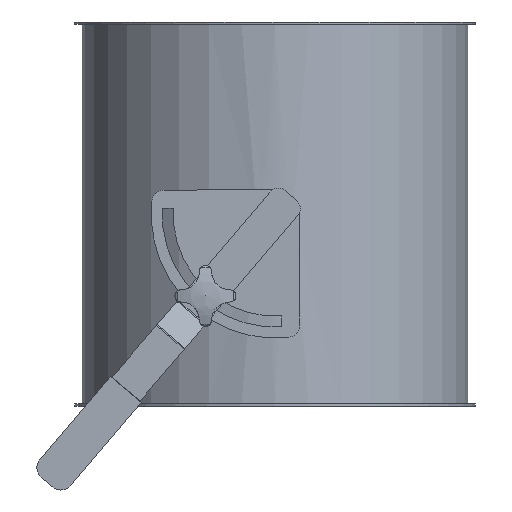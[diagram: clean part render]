
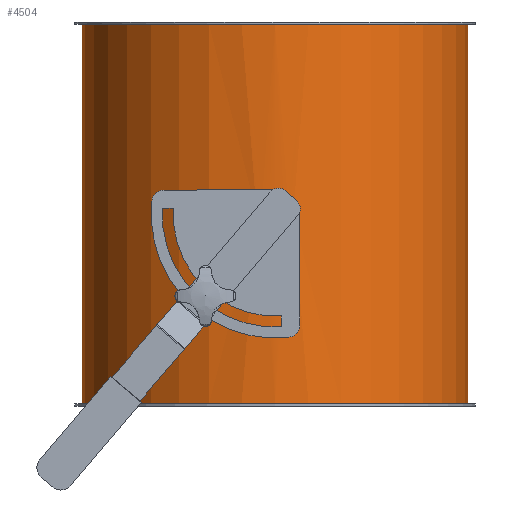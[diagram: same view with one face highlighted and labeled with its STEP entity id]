
A CAD part, left-side view. The second image highlights one B-rep face of the part: STEP entity #4504.
In plain terms, the highlighted cylindrical face has radius 158 mm (diameter 316 mm), a full revolution.
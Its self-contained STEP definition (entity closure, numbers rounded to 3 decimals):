
#4378=CARTESIAN_POINT('',(156.858,18.96,157.5));
#4379=VERTEX_POINT('',#4378);
#4389=CARTESIAN_POINT('',(156.858,18.961,157.5));
#4390=CARTESIAN_POINT('',(156.858,18.961,157.5));
#4391=CARTESIAN_POINT('',(156.858,18.961,157.501));
#4392=CARTESIAN_POINT('',(156.858,18.961,157.501));
#4393=CARTESIAN_POINT('',(156.858,18.96,159.678));
#4394=CARTESIAN_POINT('',(156.918,18.479,162.589));
#4395=CARTESIAN_POINT('',(157.16,16.324,167.97));
#4396=CARTESIAN_POINT('',(157.574,12.247,173.251));
#4397=CARTESIAN_POINT('',(158.016,4.404,177.149));
#4398=CARTESIAN_POINT('',(158.021,-5.323,177.178));
#4399=CARTESIAN_POINT('',(157.499,-13.023,172.613));
#4400=CARTESIAN_POINT('',(157.054,-17.322,166.109));
#4401=CARTESIAN_POINT('',(156.776,-19.61,158.594));
#4402=CARTESIAN_POINT('',(156.955,-18.282,149.531));
#4403=CARTESIAN_POINT('',(157.577,-12.233,141.747));
#4404=CARTESIAN_POINT('',(158.016,-4.383,137.841));
#4405=CARTESIAN_POINT('',(158.019,4.367,137.84));
#4406=CARTESIAN_POINT('',(157.576,12.223,141.729));
#4407=CARTESIAN_POINT('',(157.116,16.755,147.581));
#4408=CARTESIAN_POINT('',(156.898,18.637,153.109));
#4409=CARTESIAN_POINT('',(156.858,18.961,156.049));
#4410=CARTESIAN_POINT('',(156.858,18.961,157.5));
#4411=B_SPLINE_CURVE_WITH_KNOTS('',3,(#4389,#4390,#4391,#4392,#4393,#4394,#4395,#4396,#4397,#4398,#4399,#4400,#4401,#4402,#4403,#4404,#4405,#4406,#4407,#4408,#4409,#4410),.UNSPECIFIED.,.T.,.U.,(4,3,1,1,1,1,1,1,1,1,1,1,1,1,1,1,1,4),(-9.046,-9.046,-8.562,-8.4,-7.754,-7.108,-6.462,-5.6,-5.169,-4.739,-3.877,-3.231,-2.585,-1.938,-1.292,-0.646,-0.323,0.),.UNSPECIFIED.);
#4412=EDGE_CURVE('',#4379,#4379,#4411,.T.);
#4417=CARTESIAN_POINT('',(0.0,0.0,0.0));
#4418=DIRECTION('',(0.0,0.0,1.0));
#4419=DIRECTION('',(-1.0,0.0,0.0));
#4420=AXIS2_PLACEMENT_3D('',#4417,#4418,#4419);
#4421=CYLINDRICAL_SURFACE('',#4420,158.0);
#4422=CARTESIAN_POINT('',(158.0,0.,313.0));
#4423=VERTEX_POINT('',#4422);
#4424=CARTESIAN_POINT('',(0.0,0.0,313.0));
#4425=DIRECTION('',(0.0,0.0,-1.0));
#4426=DIRECTION('',(-1.0,0.0,0.0));
#4427=AXIS2_PLACEMENT_3D('',#4424,#4425,#4426);
#4428=CIRCLE('',#4427,158.0);
#4429=EDGE_CURVE('',#4423,#4423,#4428,.T.);
#4430=ORIENTED_EDGE('',*,*,#4429,.T.);
#4431=EDGE_LOOP('',(#4430));
#4432=FACE_OUTER_BOUND('',#4431,.T.);
#4433=CARTESIAN_POINT('',(-158.0,0.,2.0));
#4434=VERTEX_POINT('',#4433);
#4435=CARTESIAN_POINT('',(0.0,0.0,2.0));
#4436=DIRECTION('',(0.0,0.0,1.0));
#4437=DIRECTION('',(-1.0,0.0,0.0));
#4438=AXIS2_PLACEMENT_3D('',#4435,#4436,#4437);
#4439=CIRCLE('',#4438,158.0);
#4440=EDGE_CURVE('',#4434,#4434,#4439,.T.);
#4441=ORIENTED_EDGE('',*,*,#4440,.T.);
#4442=EDGE_LOOP('',(#4441));
#4443=FACE_BOUND('',#4442,.T.);
#4444=CARTESIAN_POINT('',(-157.286,15.0,157.5));
#4445=VERTEX_POINT('',#4444);
#4446=CARTESIAN_POINT('',(-157.286,15.0,157.5));
#4447=CARTESIAN_POINT('',(-157.286,15.0,158.442));
#4448=CARTESIAN_POINT('',(-157.295,14.91,159.417));
#4449=CARTESIAN_POINT('',(-157.331,14.53,161.354));
#4450=CARTESIAN_POINT('',(-157.357,14.24,162.318));
#4451=CARTESIAN_POINT('',(-157.459,13.092,165.09));
#4452=CARTESIAN_POINT('',(-157.554,11.938,166.775));
#4453=CARTESIAN_POINT('',(-157.733,9.275,169.438));
#4454=CARTESIAN_POINT('',(-157.828,7.59,170.592));
#4455=CARTESIAN_POINT('',(-157.929,4.818,171.74));
#4456=CARTESIAN_POINT('',(-157.956,3.854,172.03));
#4457=CARTESIAN_POINT('',(-157.991,1.917,172.41));
#4458=CARTESIAN_POINT('',(-158.0,0.942,172.5));
#4459=CARTESIAN_POINT('',(-158.0,-0.942,172.5));
#4460=CARTESIAN_POINT('',(-157.991,-1.917,172.41));
#4461=CARTESIAN_POINT('',(-157.956,-3.854,172.03));
#4462=CARTESIAN_POINT('',(-157.929,-4.818,171.74));
#4463=CARTESIAN_POINT('',(-157.828,-7.59,170.592));
#4464=CARTESIAN_POINT('',(-157.733,-9.275,169.438));
#4465=CARTESIAN_POINT('',(-157.554,-11.938,166.775));
#4466=CARTESIAN_POINT('',(-157.459,-13.092,165.09));
#4467=CARTESIAN_POINT('',(-157.357,-14.24,162.318));
#4468=CARTESIAN_POINT('',(-157.331,-14.53,161.354));
#4469=CARTESIAN_POINT('',(-157.295,-14.91,159.417));
#4470=CARTESIAN_POINT('',(-157.286,-15.0,158.442));
#4471=CARTESIAN_POINT('',(-157.286,-15.0,156.558));
#4472=CARTESIAN_POINT('',(-157.295,-14.91,155.583));
#4473=CARTESIAN_POINT('',(-157.331,-14.53,153.646));
#4474=CARTESIAN_POINT('',(-157.357,-14.24,152.682));
#4475=CARTESIAN_POINT('',(-157.459,-13.092,149.91));
#4476=CARTESIAN_POINT('',(-157.554,-11.938,148.225));
#4477=CARTESIAN_POINT('',(-157.733,-9.275,145.562));
#4478=CARTESIAN_POINT('',(-157.828,-7.59,144.408));
#4479=CARTESIAN_POINT('',(-157.929,-4.818,143.26));
#4480=CARTESIAN_POINT('',(-157.956,-3.854,142.97));
#4481=CARTESIAN_POINT('',(-157.991,-1.917,142.59));
#4482=CARTESIAN_POINT('',(-158.0,-0.942,142.5));
#4483=CARTESIAN_POINT('',(-158.0,0.942,142.5));
#4484=CARTESIAN_POINT('',(-157.991,1.917,142.59));
#4485=CARTESIAN_POINT('',(-157.956,3.854,142.97));
#4486=CARTESIAN_POINT('',(-157.929,4.818,143.26));
#4487=CARTESIAN_POINT('',(-157.828,7.59,144.408));
#4488=CARTESIAN_POINT('',(-157.733,9.275,145.562));
#4489=CARTESIAN_POINT('',(-157.554,11.938,148.225));
#4490=CARTESIAN_POINT('',(-157.459,13.092,149.91));
#4491=CARTESIAN_POINT('',(-157.357,14.24,152.682));
#4492=CARTESIAN_POINT('',(-157.331,14.53,153.646));
#4493=CARTESIAN_POINT('',(-157.295,14.91,155.583));
#4494=CARTESIAN_POINT('',(-157.286,15.0,156.558));
#4495=CARTESIAN_POINT('',(-157.286,15.0,157.5));
#4496=B_SPLINE_CURVE_WITH_KNOTS('',3,(#4446,#4447,#4448,#4449,#4450,#4451,#4452,#4453,#4454,#4455,#4456,#4457,#4458,#4459,#4460,#4461,#4462,#4463,#4464,#4465,#4466,#4467,#4468,#4469,#4470,#4471,#4472,#4473,#4474,#4475,#4476,#4477,#4478,#4479,#4480,#4481,#4482,#4483,#4484,#4485,#4486,#4487,#4488,#4489,#4490,#4491,#4492,#4493,#4494,#4495),.UNSPECIFIED.,.T.,.U.,(4,2,2,2,2,2,2,2,2,2,2,2,2,2,2,2,2,2,2,2,2,2,2,2,4),(0.0,0.283,0.565,1.131,1.696,1.979,2.262,2.544,2.827,3.392,3.958,4.24,4.523,4.806,5.089,5.654,6.219,6.502,6.785,7.067,7.35,7.916,8.481,8.764,9.046),.UNSPECIFIED.);
#4497=EDGE_CURVE('',#4445,#4445,#4496,.T.);
#4498=ORIENTED_EDGE('',*,*,#4497,.T.);
#4499=EDGE_LOOP('',(#4498));
#4500=FACE_BOUND('',#4499,.T.);
#4501=ORIENTED_EDGE('',*,*,#4412,.F.);
#4502=EDGE_LOOP('',(#4501));
#4503=FACE_BOUND('',#4502,.T.);
#4504=ADVANCED_FACE('',(#4432,#4443,#4500,#4503),#4421,.T.);
